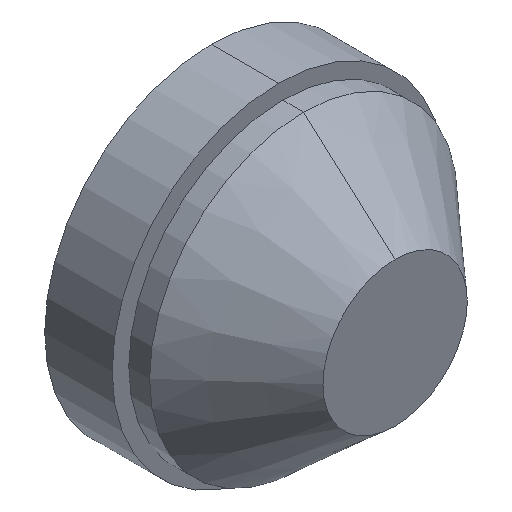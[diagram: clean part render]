
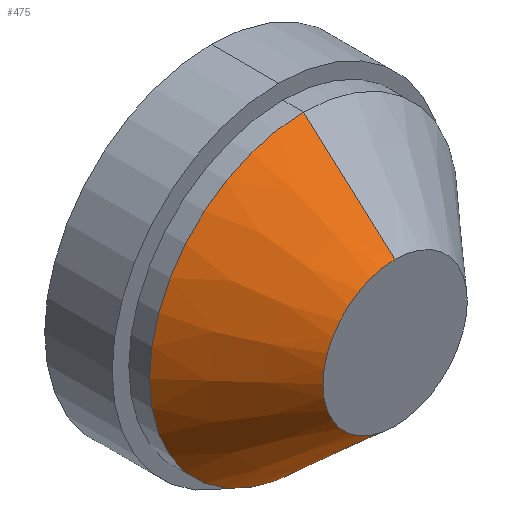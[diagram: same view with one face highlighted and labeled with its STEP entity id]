
A CAD part, isometric view. The second image highlights one B-rep face of the part: STEP entity #475.
In plain terms, the highlighted conical face has half-angle 41.781 degrees and reference radius 8.671 mm.
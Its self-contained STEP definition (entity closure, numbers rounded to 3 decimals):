
#9 = CARTESIAN_POINT ( 'NONE',  ( 0., 11., -18.5 ) ) ;
#16 = CARTESIAN_POINT ( 'NONE',  ( 0., 0., 8.671 ) ) ;
#18 = CARTESIAN_POINT ( 'NONE',  ( 0., 0., -8.671 ) ) ;
#49 = DIRECTION ( 'NONE',  ( 0., 0., 1. ) ) ;
#51 = DIRECTION ( 'NONE',  ( 0., 1., 0. ) ) ;
#53 = CARTESIAN_POINT ( 'NONE',  ( 0., 0., 0. ) ) ;
#124 = AXIS2_PLACEMENT_3D ( 'NONE', #53, #51, #49 ) ;
#135 = AXIS2_PLACEMENT_3D ( 'NONE', #412, #411, #265 ) ;
#142 = AXIS2_PLACEMENT_3D ( 'NONE', #394, #391, #396 ) ;
#163 = EDGE_CURVE ( 'NONE', #204, #200, #278, .T. ) ;
#175 = EDGE_CURVE ( 'NONE', #208, #200, #281, .T. ) ;
#182 = EDGE_CURVE ( 'NONE', #208, #202, #293, .T. ) ;
#183 = EDGE_CURVE ( 'NONE', #202, #204, #294, .T. ) ;
#188 = ORIENTED_EDGE ( 'NONE', *, *, #183, .T. ) ;
#189 = ORIENTED_EDGE ( 'NONE', *, *, #163, .T. ) ;
#200 = VERTEX_POINT ( 'NONE', #9 ) ;
#202 = VERTEX_POINT ( 'NONE', #16 ) ;
#204 = VERTEX_POINT ( 'NONE', #410 ) ;
#208 = VERTEX_POINT ( 'NONE', #18 ) ;
#258 = DIRECTION ( 'NONE',  ( 0., 0.746, 0.666 ) ) ;
#259 = CARTESIAN_POINT ( 'NONE',  ( 0., 0., 8.671 ) ) ;
#265 = DIRECTION ( 'NONE',  ( 0., 0., 1. ) ) ;
#278 = CIRCLE ( 'NONE', #142, 18.5 ) ;
#281 = LINE ( 'NONE', #375, #284 ) ;
#284 = VECTOR ( 'NONE', #369, 1000. ) ;
#293 = CIRCLE ( 'NONE', #135, 8.671 ) ;
#294 = LINE ( 'NONE', #259, #296 ) ;
#296 = VECTOR ( 'NONE', #258, 1000. ) ;
#311 = FACE_OUTER_BOUND ( 'NONE', #389, .T. ) ;
#320 = CONICAL_SURFACE ( 'NONE', #124, 8.671, 0.729 ) ;
#369 = DIRECTION ( 'NONE',  ( 0., 0.746, -0.666 ) ) ;
#375 = CARTESIAN_POINT ( 'NONE',  ( 0., 0., -8.671 ) ) ;
#389 = EDGE_LOOP ( 'NONE', ( #485, #484, #188, #189 ) ) ;
#391 = DIRECTION ( 'NONE',  ( 0., -1., 0. ) ) ;
#394 = CARTESIAN_POINT ( 'NONE',  ( 0., 11., 0. ) ) ;
#396 = DIRECTION ( 'NONE',  ( 0., 0., -1. ) ) ;
#410 = CARTESIAN_POINT ( 'NONE',  ( 0., 11., 18.5 ) ) ;
#411 = DIRECTION ( 'NONE',  ( 0., 1., 0. ) ) ;
#412 = CARTESIAN_POINT ( 'NONE',  ( 0., 0., 0. ) ) ;
#475 = ADVANCED_FACE ( 'NONE', ( #311 ), #320, .T. ) ;
#484 = ORIENTED_EDGE ( 'NONE', *, *, #182, .T. ) ;
#485 = ORIENTED_EDGE ( 'NONE', *, *, #175, .F. ) ;
